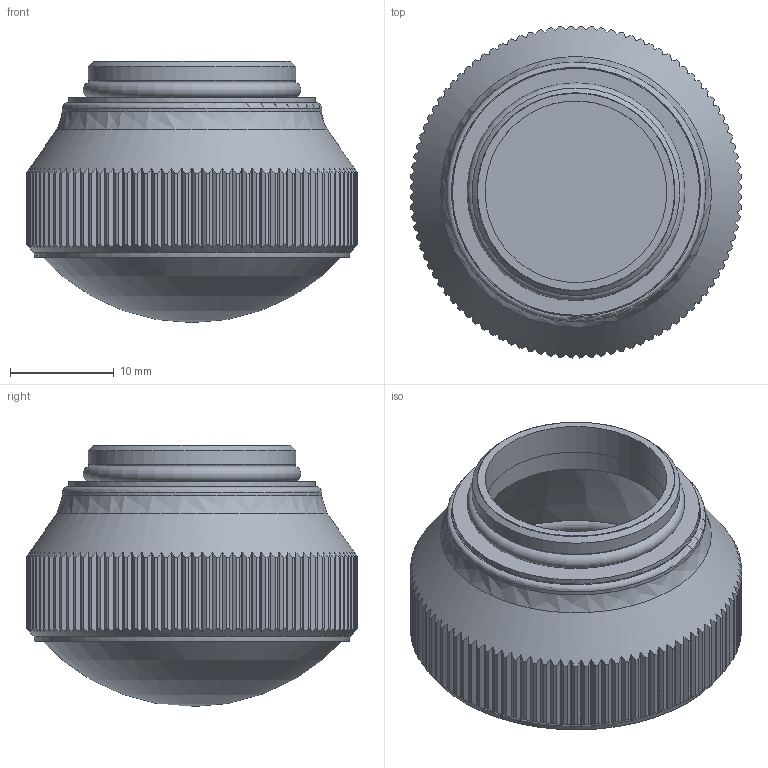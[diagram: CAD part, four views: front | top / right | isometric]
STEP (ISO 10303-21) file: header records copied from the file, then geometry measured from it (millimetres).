
FILE_DESCRIPTION(/* description */ (''),/* implementation_level */ '2;1');
FILE_NAME(/* name */ 'GOT-5046_Obiettivo 40-75mm LDµ 425 LD46 735.stp',/* time_stamp */ '2021-03-03T15:01:19+01:00',/* author */ (''),/* organization */ (''),/* preprocessor_version */ 'ST-DEVELOPER v16.7',/* originating_system */ 'SIEMENS PLM Software NX 12.0',/* authorisation */ '');
FILE_SCHEMA (('AUTOMOTIVE_DESIGN { 1 0 10303 214 3 1 1 1 }'));
Length unit declared in the file: millimetre
Products named in the file (1): MBra3D98ACD4ec5l
Bounding box: 31.99 x 31.99 x 25.18 mm (x, y, z)
Volume: 8230.4 mm3; surface area: 6345.6 mm2
Topology: 4 solids, 4 shells, 430 faces, 1260 edges, 837 vertices
Faces by surface type: cylinder 209, plane 206, cone 8, torus 4, bspline 2, sphere 1
Full cylindrical faces by diameter (mm): 17.5 x2, 18.8 x2, 20 x1, 23.8 x1, 25 x1, 29.9 x1, 30 x1
Entity records: 17082 total; most frequent: CARTESIAN_POINT 8138, ORIENTED_EDGE 2460, EDGE_CURVE 1230, B_SPLINE_CURVE_WITH_KNOTS 1223, DIRECTION 874, VERTEX_POINT 831, EDGE_LOOP 453, AXIS2_PLACEMENT_3D 436
